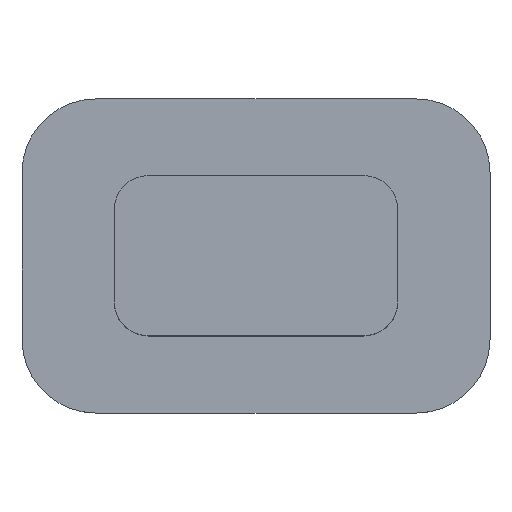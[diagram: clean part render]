
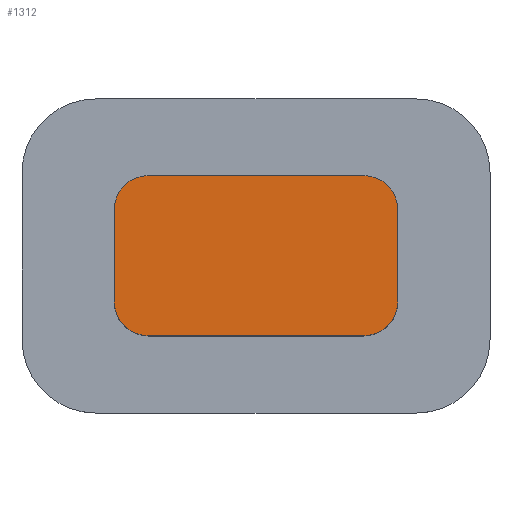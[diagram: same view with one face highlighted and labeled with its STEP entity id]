
A CAD part, top view. The second image highlights one B-rep face of the part: STEP entity #1312.
In plain terms, the highlighted planar face has unit normal (0, 0, 1).
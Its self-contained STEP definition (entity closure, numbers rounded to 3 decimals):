
#359 = CYLINDRICAL_SURFACE('',#360,0.55);
#360 = AXIS2_PLACEMENT_3D('',#361,#362,#363);
#361 = CARTESIAN_POINT('',(-1.75,-0.75,0.38));
#362 = DIRECTION('',(0.,0.,1.));
#363 = DIRECTION('',(-1.,-0.,0.));
#386 = PLANE('',#387);
#387 = AXIS2_PLACEMENT_3D('',#388,#389,#390);
#388 = CARTESIAN_POINT('',(-2.3,-1.3,0.38));
#389 = DIRECTION('',(1.,0.,0.));
#390 = DIRECTION('',(0.,0.,1.));
#414 = CYLINDRICAL_SURFACE('',#415,0.55);
#415 = AXIS2_PLACEMENT_3D('',#416,#417,#418);
#416 = CARTESIAN_POINT('',(-1.75,0.75,0.38));
#417 = DIRECTION('',(0.,0.,1.));
#418 = DIRECTION('',(-1.,-0.,0.));
#441 = PLANE('',#442);
#442 = AXIS2_PLACEMENT_3D('',#443,#444,#445);
#443 = CARTESIAN_POINT('',(-2.3,1.3,0.38));
#444 = DIRECTION('',(0.,1.,0.));
#445 = DIRECTION('',(0.,0.,1.));
#469 = CYLINDRICAL_SURFACE('',#470,0.55);
#470 = AXIS2_PLACEMENT_3D('',#471,#472,#473);
#471 = CARTESIAN_POINT('',(1.75,0.75,0.38));
#472 = DIRECTION('',(0.,0.,1.));
#473 = DIRECTION('',(1.,0.,-0.));
#496 = PLANE('',#497);
#497 = AXIS2_PLACEMENT_3D('',#498,#499,#500);
#498 = CARTESIAN_POINT('',(2.3,-1.3,0.38));
#499 = DIRECTION('',(1.,0.,0.));
#500 = DIRECTION('',(0.,0.,1.));
#524 = CYLINDRICAL_SURFACE('',#525,0.55);
#525 = AXIS2_PLACEMENT_3D('',#526,#527,#528);
#526 = CARTESIAN_POINT('',(1.75,-0.75,0.38));
#527 = DIRECTION('',(0.,0.,1.));
#528 = DIRECTION('',(1.,0.,-0.));
#549 = PLANE('',#550);
#550 = AXIS2_PLACEMENT_3D('',#551,#552,#553);
#551 = CARTESIAN_POINT('',(-2.3,-1.3,0.38));
#552 = DIRECTION('',(0.,1.,0.));
#553 = DIRECTION('',(0.,0.,1.));
#908 = VERTEX_POINT('',#909);
#909 = CARTESIAN_POINT('',(-2.3,-0.75,3.305));
#932 = VERTEX_POINT('',#933);
#933 = CARTESIAN_POINT('',(-1.75,-1.3,3.305));
#954 = EDGE_CURVE('',#908,#932,#955,.T.);
#955 = SURFACE_CURVE('',#956,(#961,#968),.PCURVE_S1.);
#956 = CIRCLE('',#957,0.55);
#957 = AXIS2_PLACEMENT_3D('',#958,#959,#960);
#958 = CARTESIAN_POINT('',(-1.75,-0.75,3.305));
#959 = DIRECTION('',(0.,0.,1.));
#960 = DIRECTION('',(0.,-1.,0.));
#961 = PCURVE('',#359,#962);
#962 = DEFINITIONAL_REPRESENTATION('',(#963),#967);
#963 = LINE('',#964,#965);
#964 = CARTESIAN_POINT('',(-4.712,2.925));
#965 = VECTOR('',#966,1.);
#966 = DIRECTION('',(1.,0.));
#967 = ( GEOMETRIC_REPRESENTATION_CONTEXT(2) 
PARAMETRIC_REPRESENTATION_CONTEXT() REPRESENTATION_CONTEXT('2D SPACE',''
  ) );
#968 = PCURVE('',#969,#974);
#969 = PLANE('',#970);
#970 = AXIS2_PLACEMENT_3D('',#971,#972,#973);
#971 = CARTESIAN_POINT('',(-2.3,-1.3,3.305));
#972 = DIRECTION('',(0.,0.,1.));
#973 = DIRECTION('',(1.,0.,0.));
#974 = DEFINITIONAL_REPRESENTATION('',(#975),#979);
#975 = CIRCLE('',#976,0.55);
#976 = AXIS2_PLACEMENT_2D('',#977,#978);
#977 = CARTESIAN_POINT('',(0.55,0.55));
#978 = DIRECTION('',(0.,-1.));
#979 = ( GEOMETRIC_REPRESENTATION_CONTEXT(2) 
PARAMETRIC_REPRESENTATION_CONTEXT() REPRESENTATION_CONTEXT('2D SPACE',''
  ) );
#986 = EDGE_CURVE('',#932,#987,#989,.T.);
#987 = VERTEX_POINT('',#988);
#988 = CARTESIAN_POINT('',(1.75,-1.3,3.305));
#989 = SURFACE_CURVE('',#990,(#994,#1001),.PCURVE_S1.);
#990 = LINE('',#991,#992);
#991 = CARTESIAN_POINT('',(-2.3,-1.3,3.305));
#992 = VECTOR('',#993,1.);
#993 = DIRECTION('',(1.,0.,0.));
#994 = PCURVE('',#549,#995);
#995 = DEFINITIONAL_REPRESENTATION('',(#996),#1000);
#996 = LINE('',#997,#998);
#997 = CARTESIAN_POINT('',(2.925,0.));
#998 = VECTOR('',#999,1.);
#999 = DIRECTION('',(0.,1.));
#1000 = ( GEOMETRIC_REPRESENTATION_CONTEXT(2) 
PARAMETRIC_REPRESENTATION_CONTEXT() REPRESENTATION_CONTEXT('2D SPACE',''
  ) );
#1001 = PCURVE('',#969,#1002);
#1002 = DEFINITIONAL_REPRESENTATION('',(#1003),#1007);
#1003 = LINE('',#1004,#1005);
#1004 = CARTESIAN_POINT('',(0.,0.));
#1005 = VECTOR('',#1006,1.);
#1006 = DIRECTION('',(1.,0.));
#1007 = ( GEOMETRIC_REPRESENTATION_CONTEXT(2) 
PARAMETRIC_REPRESENTATION_CONTEXT() REPRESENTATION_CONTEXT('2D SPACE',''
  ) );
#1034 = VERTEX_POINT('',#1035);
#1035 = CARTESIAN_POINT('',(2.3,-0.75,3.305));
#1058 = EDGE_CURVE('',#1034,#987,#1059,.T.);
#1059 = SURFACE_CURVE('',#1060,(#1065,#1072),.PCURVE_S1.);
#1060 = CIRCLE('',#1061,0.55);
#1061 = AXIS2_PLACEMENT_3D('',#1062,#1063,#1064);
#1062 = CARTESIAN_POINT('',(1.75,-0.75,3.305));
#1063 = DIRECTION('',(-0.,-0.,-1.));
#1064 = DIRECTION('',(0.,-1.,0.));
#1065 = PCURVE('',#524,#1066);
#1066 = DEFINITIONAL_REPRESENTATION('',(#1067),#1071);
#1067 = LINE('',#1068,#1069);
#1068 = CARTESIAN_POINT('',(4.712,2.925));
#1069 = VECTOR('',#1070,1.);
#1070 = DIRECTION('',(-1.,0.));
#1071 = ( GEOMETRIC_REPRESENTATION_CONTEXT(2) 
PARAMETRIC_REPRESENTATION_CONTEXT() REPRESENTATION_CONTEXT('2D SPACE',''
  ) );
#1072 = PCURVE('',#969,#1073);
#1073 = DEFINITIONAL_REPRESENTATION('',(#1074),#1082);
#1074 = ( BOUNDED_CURVE() B_SPLINE_CURVE(2,(#1075,#1076,#1077,#1078,
#1079,#1080,#1081),.UNSPECIFIED.,.T.,.F.) B_SPLINE_CURVE_WITH_KNOTS((1,2
    ,2,2,2,1),(-2.094,0.,2.094,4.189,
6.283,8.378),.UNSPECIFIED.) CURVE() 
GEOMETRIC_REPRESENTATION_ITEM() RATIONAL_B_SPLINE_CURVE((1.,0.5,1.,0.5,
1.,0.5,1.)) REPRESENTATION_ITEM('') );
#1075 = CARTESIAN_POINT('',(4.05,0.));
#1076 = CARTESIAN_POINT('',(3.097,0.));
#1077 = CARTESIAN_POINT('',(3.574,0.825));
#1078 = CARTESIAN_POINT('',(4.05,1.65));
#1079 = CARTESIAN_POINT('',(4.526,0.825));
#1080 = CARTESIAN_POINT('',(5.003,0.));
#1081 = CARTESIAN_POINT('',(4.05,0.));
#1082 = ( GEOMETRIC_REPRESENTATION_CONTEXT(2) 
PARAMETRIC_REPRESENTATION_CONTEXT() REPRESENTATION_CONTEXT('2D SPACE',''
  ) );
#1087 = EDGE_CURVE('',#1034,#1088,#1090,.T.);
#1088 = VERTEX_POINT('',#1089);
#1089 = CARTESIAN_POINT('',(2.3,0.75,3.305));
#1090 = SURFACE_CURVE('',#1091,(#1095,#1102),.PCURVE_S1.);
#1091 = LINE('',#1092,#1093);
#1092 = CARTESIAN_POINT('',(2.3,-1.3,3.305));
#1093 = VECTOR('',#1094,1.);
#1094 = DIRECTION('',(0.,1.,0.));
#1095 = PCURVE('',#496,#1096);
#1096 = DEFINITIONAL_REPRESENTATION('',(#1097),#1101);
#1097 = LINE('',#1098,#1099);
#1098 = CARTESIAN_POINT('',(2.925,0.));
#1099 = VECTOR('',#1100,1.);
#1100 = DIRECTION('',(0.,-1.));
#1101 = ( GEOMETRIC_REPRESENTATION_CONTEXT(2) 
PARAMETRIC_REPRESENTATION_CONTEXT() REPRESENTATION_CONTEXT('2D SPACE',''
  ) );
#1102 = PCURVE('',#969,#1103);
#1103 = DEFINITIONAL_REPRESENTATION('',(#1104),#1108);
#1104 = LINE('',#1105,#1106);
#1105 = CARTESIAN_POINT('',(4.6,0.));
#1106 = VECTOR('',#1107,1.);
#1107 = DIRECTION('',(0.,1.));
#1108 = ( GEOMETRIC_REPRESENTATION_CONTEXT(2) 
PARAMETRIC_REPRESENTATION_CONTEXT() REPRESENTATION_CONTEXT('2D SPACE',''
  ) );
#1139 = VERTEX_POINT('',#1140);
#1140 = CARTESIAN_POINT('',(1.75,1.3,3.305));
#1161 = EDGE_CURVE('',#1088,#1139,#1162,.T.);
#1162 = SURFACE_CURVE('',#1163,(#1168,#1175),.PCURVE_S1.);
#1163 = CIRCLE('',#1164,0.55);
#1164 = AXIS2_PLACEMENT_3D('',#1165,#1166,#1167);
#1165 = CARTESIAN_POINT('',(1.75,0.75,3.305));
#1166 = DIRECTION('',(0.,0.,1.));
#1167 = DIRECTION('',(0.,-1.,0.));
#1168 = PCURVE('',#469,#1169);
#1169 = DEFINITIONAL_REPRESENTATION('',(#1170),#1174);
#1170 = LINE('',#1171,#1172);
#1171 = CARTESIAN_POINT('',(-1.571,2.925));
#1172 = VECTOR('',#1173,1.);
#1173 = DIRECTION('',(1.,0.));
#1174 = ( GEOMETRIC_REPRESENTATION_CONTEXT(2) 
PARAMETRIC_REPRESENTATION_CONTEXT() REPRESENTATION_CONTEXT('2D SPACE',''
  ) );
#1175 = PCURVE('',#969,#1176);
#1176 = DEFINITIONAL_REPRESENTATION('',(#1177),#1181);
#1177 = CIRCLE('',#1178,0.55);
#1178 = AXIS2_PLACEMENT_2D('',#1179,#1180);
#1179 = CARTESIAN_POINT('',(4.05,2.05));
#1180 = DIRECTION('',(0.,-1.));
#1181 = ( GEOMETRIC_REPRESENTATION_CONTEXT(2) 
PARAMETRIC_REPRESENTATION_CONTEXT() REPRESENTATION_CONTEXT('2D SPACE',''
  ) );
#1188 = VERTEX_POINT('',#1189);
#1189 = CARTESIAN_POINT('',(-1.75,1.3,3.305));
#1210 = EDGE_CURVE('',#1188,#1139,#1211,.T.);
#1211 = SURFACE_CURVE('',#1212,(#1216,#1223),.PCURVE_S1.);
#1212 = LINE('',#1213,#1214);
#1213 = CARTESIAN_POINT('',(-2.3,1.3,3.305));
#1214 = VECTOR('',#1215,1.);
#1215 = DIRECTION('',(1.,0.,0.));
#1216 = PCURVE('',#441,#1217);
#1217 = DEFINITIONAL_REPRESENTATION('',(#1218),#1222);
#1218 = LINE('',#1219,#1220);
#1219 = CARTESIAN_POINT('',(2.925,0.));
#1220 = VECTOR('',#1221,1.);
#1221 = DIRECTION('',(0.,1.));
#1222 = ( GEOMETRIC_REPRESENTATION_CONTEXT(2) 
PARAMETRIC_REPRESENTATION_CONTEXT() REPRESENTATION_CONTEXT('2D SPACE',''
  ) );
#1223 = PCURVE('',#969,#1224);
#1224 = DEFINITIONAL_REPRESENTATION('',(#1225),#1229);
#1225 = LINE('',#1226,#1227);
#1226 = CARTESIAN_POINT('',(0.,2.6));
#1227 = VECTOR('',#1228,1.);
#1228 = DIRECTION('',(1.,0.));
#1229 = ( GEOMETRIC_REPRESENTATION_CONTEXT(2) 
PARAMETRIC_REPRESENTATION_CONTEXT() REPRESENTATION_CONTEXT('2D SPACE',''
  ) );
#1236 = VERTEX_POINT('',#1237);
#1237 = CARTESIAN_POINT('',(-2.3,0.75,3.305));
#1260 = EDGE_CURVE('',#1236,#1188,#1261,.T.);
#1261 = SURFACE_CURVE('',#1262,(#1267,#1274),.PCURVE_S1.);
#1262 = CIRCLE('',#1263,0.55);
#1263 = AXIS2_PLACEMENT_3D('',#1264,#1265,#1266);
#1264 = CARTESIAN_POINT('',(-1.75,0.75,3.305));
#1265 = DIRECTION('',(-0.,-0.,-1.));
#1266 = DIRECTION('',(0.,-1.,0.));
#1267 = PCURVE('',#414,#1268);
#1268 = DEFINITIONAL_REPRESENTATION('',(#1269),#1273);
#1269 = LINE('',#1270,#1271);
#1270 = CARTESIAN_POINT('',(1.571,2.925));
#1271 = VECTOR('',#1272,1.);
#1272 = DIRECTION('',(-1.,0.));
#1273 = ( GEOMETRIC_REPRESENTATION_CONTEXT(2) 
PARAMETRIC_REPRESENTATION_CONTEXT() REPRESENTATION_CONTEXT('2D SPACE',''
  ) );
#1274 = PCURVE('',#969,#1275);
#1275 = DEFINITIONAL_REPRESENTATION('',(#1276),#1284);
#1276 = ( BOUNDED_CURVE() B_SPLINE_CURVE(2,(#1277,#1278,#1279,#1280,
#1281,#1282,#1283),.UNSPECIFIED.,.T.,.F.) B_SPLINE_CURVE_WITH_KNOTS((1,2
    ,2,2,2,1),(-2.094,0.,2.094,4.189,
6.283,8.378),.UNSPECIFIED.) CURVE() 
GEOMETRIC_REPRESENTATION_ITEM() RATIONAL_B_SPLINE_CURVE((1.,0.5,1.,0.5,
1.,0.5,1.)) REPRESENTATION_ITEM('') );
#1277 = CARTESIAN_POINT('',(0.55,1.5));
#1278 = CARTESIAN_POINT('',(-0.403,1.5));
#1279 = CARTESIAN_POINT('',(0.074,2.325));
#1280 = CARTESIAN_POINT('',(0.55,3.15));
#1281 = CARTESIAN_POINT('',(1.026,2.325));
#1282 = CARTESIAN_POINT('',(1.503,1.5));
#1283 = CARTESIAN_POINT('',(0.55,1.5));
#1284 = ( GEOMETRIC_REPRESENTATION_CONTEXT(2) 
PARAMETRIC_REPRESENTATION_CONTEXT() REPRESENTATION_CONTEXT('2D SPACE',''
  ) );
#1289 = EDGE_CURVE('',#908,#1236,#1290,.T.);
#1290 = SURFACE_CURVE('',#1291,(#1295,#1302),.PCURVE_S1.);
#1291 = LINE('',#1292,#1293);
#1292 = CARTESIAN_POINT('',(-2.3,-1.3,3.305));
#1293 = VECTOR('',#1294,1.);
#1294 = DIRECTION('',(0.,1.,0.));
#1295 = PCURVE('',#386,#1296);
#1296 = DEFINITIONAL_REPRESENTATION('',(#1297),#1301);
#1297 = LINE('',#1298,#1299);
#1298 = CARTESIAN_POINT('',(2.925,0.));
#1299 = VECTOR('',#1300,1.);
#1300 = DIRECTION('',(0.,-1.));
#1301 = ( GEOMETRIC_REPRESENTATION_CONTEXT(2) 
PARAMETRIC_REPRESENTATION_CONTEXT() REPRESENTATION_CONTEXT('2D SPACE',''
  ) );
#1302 = PCURVE('',#969,#1303);
#1303 = DEFINITIONAL_REPRESENTATION('',(#1304),#1308);
#1304 = LINE('',#1305,#1306);
#1305 = CARTESIAN_POINT('',(0.,0.));
#1306 = VECTOR('',#1307,1.);
#1307 = DIRECTION('',(0.,1.));
#1308 = ( GEOMETRIC_REPRESENTATION_CONTEXT(2) 
PARAMETRIC_REPRESENTATION_CONTEXT() REPRESENTATION_CONTEXT('2D SPACE',''
  ) );
#1312 = ADVANCED_FACE('',(#1313),#969,.T.);
#1313 = FACE_BOUND('',#1314,.T.);
#1314 = EDGE_LOOP('',(#1315,#1316,#1317,#1318,#1319,#1320,#1321,#1322));
#1315 = ORIENTED_EDGE('',*,*,#1289,.F.);
#1316 = ORIENTED_EDGE('',*,*,#954,.T.);
#1317 = ORIENTED_EDGE('',*,*,#986,.T.);
#1318 = ORIENTED_EDGE('',*,*,#1058,.F.);
#1319 = ORIENTED_EDGE('',*,*,#1087,.T.);
#1320 = ORIENTED_EDGE('',*,*,#1161,.T.);
#1321 = ORIENTED_EDGE('',*,*,#1210,.F.);
#1322 = ORIENTED_EDGE('',*,*,#1260,.F.);
